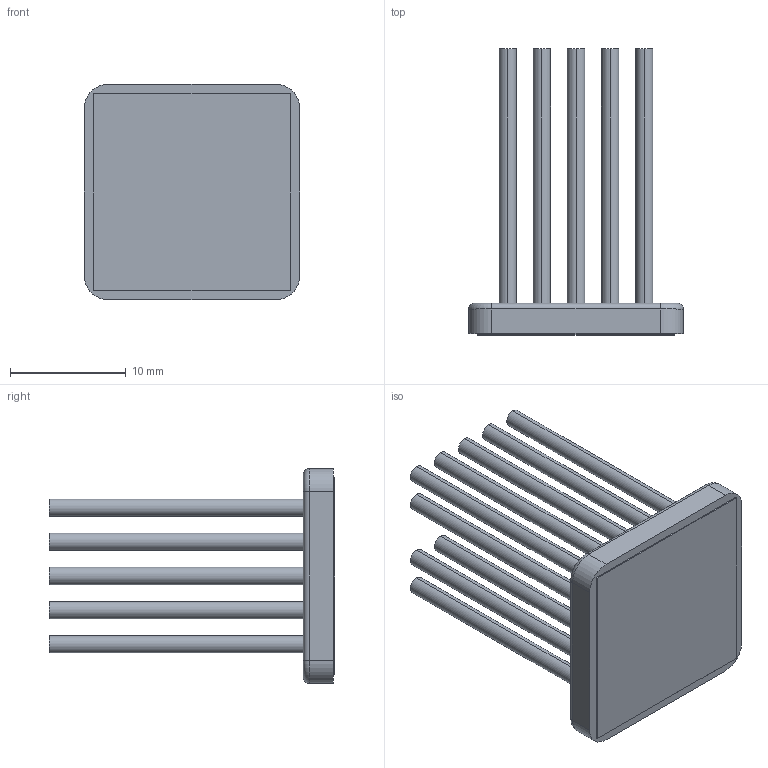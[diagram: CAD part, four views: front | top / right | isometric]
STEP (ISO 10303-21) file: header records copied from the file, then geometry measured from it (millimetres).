
FILE_DESCRIPTION (( 'STEP AP214' ), '1' );
FILE_NAME ('INM19002-25PCU-2.6.STEP', '2023-03-02T22:42:06', ( '' ), ( '' ), 'SwSTEP 2.0', 'SolidWorks 2020', '' );
FILE_SCHEMA (( 'AUTOMOTIVE_DESIGN' ));
Length unit declared in the file: millimetre
Products named in the file (1): INM19002-25PCU-2.6
Bounding box: 18.6 x 24.73 x 18.6 mm (x, y, z)
Volume: 1732.1 mm3; surface area: 3616.1 mm2
Topology: 2 solids, 2 shells, 87 faces, 178 edges, 116 vertices
Faces by surface type: cylinder 50, plane 33, torus 4
Entity records: 3332 total; most frequent: DIRECTION 458, CARTESIAN_POINT 382, ORIENTED_EDGE 356, AXIS2_PLACEMENT_3D 192, EDGE_CURVE 178, VERTEX_POINT 116, EDGE_LOOP 108, CIRCLE 104
